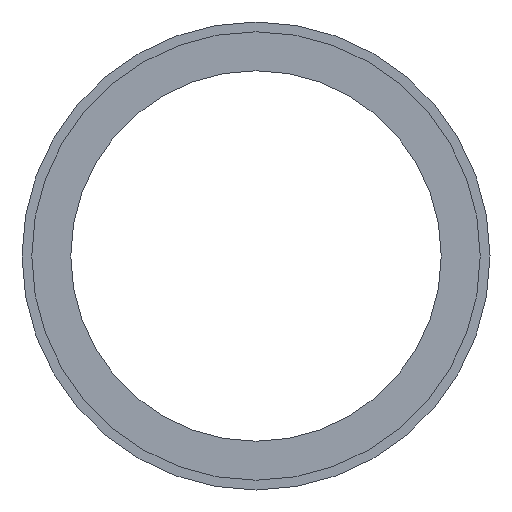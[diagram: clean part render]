
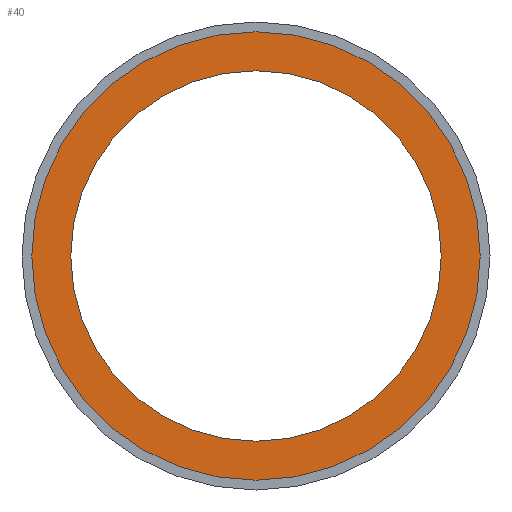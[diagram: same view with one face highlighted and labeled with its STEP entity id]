
A CAD part, front view. The second image highlights one B-rep face of the part: STEP entity #40.
In plain terms, the highlighted planar face has unit normal (0, -1, 0).
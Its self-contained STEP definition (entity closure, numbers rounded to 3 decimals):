
#40 = ADVANCED_FACE( '', ( #81, #82 ), #83, .F. );
#81 = FACE_OUTER_BOUND( '', #120, .T. );
#82 = FACE_BOUND( '', #121, .T. );
#83 = PLANE( '', #122 );
#120 = EDGE_LOOP( '', ( #161 ) );
#121 = EDGE_LOOP( '', ( #162 ) );
#122 = AXIS2_PLACEMENT_3D( '', #163, #164, #165 );
#161 = ORIENTED_EDGE( '', *, *, #191, .T. );
#162 = ORIENTED_EDGE( '', *, *, #186, .F. );
#163 = CARTESIAN_POINT( '', ( 0., 0., 12. ) );
#164 = DIRECTION( '', ( 0., 1., 0. ) );
#165 = DIRECTION( '', ( 0., 0., 1. ) );
#186 = EDGE_CURVE( '', #203, #203, #204, .T. );
#191 = EDGE_CURVE( '', #211, #211, #212, .T. );
#203 = VERTEX_POINT( '', #227 );
#204 = CIRCLE( '', #228, 9.5 );
#211 = VERTEX_POINT( '', #235 );
#212 = CIRCLE( '', #236, 11.5 );
#227 = CARTESIAN_POINT( '', ( 0., 0., -9.5 ) );
#228 = AXIS2_PLACEMENT_3D( '', #251, #252, #253 );
#235 = CARTESIAN_POINT( '', ( 0., 0., -11.5 ) );
#236 = AXIS2_PLACEMENT_3D( '', #260, #261, #262 );
#251 = CARTESIAN_POINT( '', ( 0., 0., 0. ) );
#252 = DIRECTION( '', ( 0., -1., 0. ) );
#253 = DIRECTION( '', ( 0., 0., -1. ) );
#260 = CARTESIAN_POINT( '', ( 0., 0., 0. ) );
#261 = DIRECTION( '', ( 0., -1., 0. ) );
#262 = DIRECTION( '', ( 0., 0., -1. ) );
